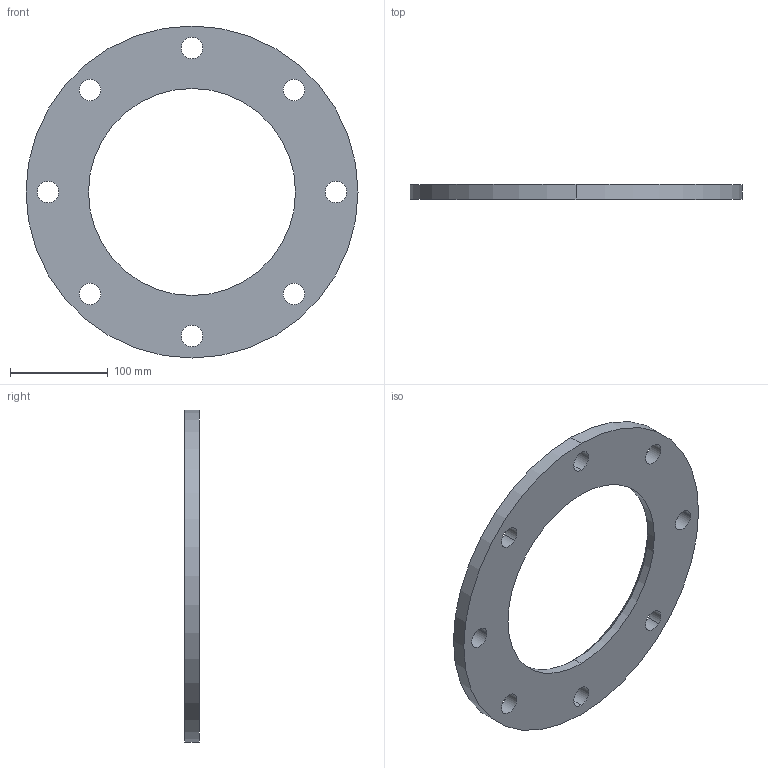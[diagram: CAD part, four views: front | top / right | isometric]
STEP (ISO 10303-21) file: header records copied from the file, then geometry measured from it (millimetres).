
FILE_DESCRIPTION (( 'STEP AP203' ), '1' );
FILE_NAME ('3D_R185_PN10_DN204_176641175_176642175.STEP', '2024-07-10T07:16:57', ( '' ), ( '' ), 'SwSTEP 2.0', 'SolidWorks 2024', '' );
FILE_SCHEMA (( 'CONFIG_CONTROL_DESIGN' ));
Length unit declared in the file: millimetre
Products named in the file (1): 3D_R185_PN10_DN204_176641175_176642175
Bounding box: 340 x 15 x 340 mm (x, y, z)
Volume: 776532.7 mm3; surface area: 137103.8 mm2
Topology: 1 solids, 1 shells, 24 faces, 64 edges, 42 vertices
Faces by surface type: cylinder 20, cone 2, plane 2
Entity records: 887 total; most frequent: DIRECTION 156, CARTESIAN_POINT 131, ORIENTED_EDGE 128, AXIS2_PLACEMENT_3D 67, EDGE_CURVE 64, VERTEX_POINT 42, CIRCLE 42, EDGE_LOOP 42
